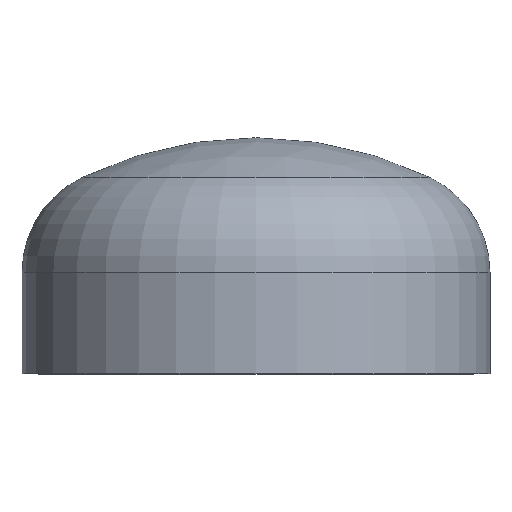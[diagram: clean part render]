
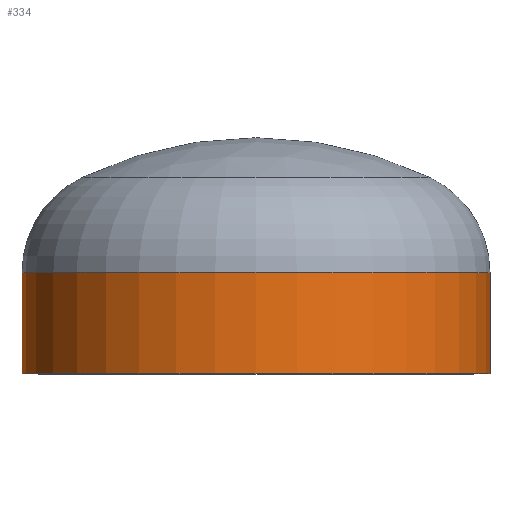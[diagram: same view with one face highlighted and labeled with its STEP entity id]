
A CAD part, top view. The second image highlights one B-rep face of the part: STEP entity #334.
In plain terms, the highlighted cylindrical face has radius 161.95 mm (diameter 323.9 mm), a partial arc.
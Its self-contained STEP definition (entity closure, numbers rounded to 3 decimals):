
#1 = CYLINDRICAL_SURFACE ( 'NONE', #19, 161.95 ) ;
#5 = EDGE_LOOP ( 'NONE', ( #409, #167, #107, #239 ) ) ;
#14 = AXIS2_PLACEMENT_3D ( 'NONE', #354, #208, #375 ) ;
#15 = VERTEX_POINT ( 'NONE', #299 ) ;
#19 = AXIS2_PLACEMENT_3D ( 'NONE', #130, #152, #110 ) ;
#22 = FACE_OUTER_BOUND ( 'NONE', #5, .T. ) ;
#84 = AXIS2_PLACEMENT_3D ( 'NONE', #250, #249, #247 ) ;
#87 = EDGE_CURVE ( 'NONE', #15, #125, #180, .T. ) ;
#92 = EDGE_CURVE ( 'NONE', #127, #125, #403, .T. ) ;
#107 = ORIENTED_EDGE ( 'NONE', *, *, #87, .F. ) ;
#110 = DIRECTION ( 'NONE',  ( 1., 0., 0. ) ) ;
#116 = VERTEX_POINT ( 'NONE', #219 ) ;
#124 = VECTOR ( 'NONE', #307, 1000. ) ;
#125 = VERTEX_POINT ( 'NONE', #312 ) ;
#127 = VERTEX_POINT ( 'NONE', #197 ) ;
#129 = VECTOR ( 'NONE', #346, 1000. ) ;
#130 = CARTESIAN_POINT ( 'NONE',  ( 0., 0., 0. ) ) ;
#152 = DIRECTION ( 'NONE',  ( 0., -1., 0. ) ) ;
#167 = ORIENTED_EDGE ( 'NONE', *, *, #92, .T. ) ;
#180 = CIRCLE ( 'NONE', #84, 161.95 ) ;
#197 = CARTESIAN_POINT ( 'NONE',  ( -161.95, 70., 0. ) ) ;
#200 = CARTESIAN_POINT ( 'NONE',  ( 161.95, 0., 0. ) ) ;
#208 = DIRECTION ( 'NONE',  ( 0., -1., 0. ) ) ;
#219 = CARTESIAN_POINT ( 'NONE',  ( 161.95, 70., 0. ) ) ;
#233 = LINE ( 'NONE', #200, #129 ) ;
#239 = ORIENTED_EDGE ( 'NONE', *, *, #373, .F. ) ;
#247 = DIRECTION ( 'NONE',  ( 1., 0., 0. ) ) ;
#249 = DIRECTION ( 'NONE',  ( 0., -1., 0. ) ) ;
#250 = CARTESIAN_POINT ( 'NONE',  ( 0., 0., 0. ) ) ;
#299 = CARTESIAN_POINT ( 'NONE',  ( 161.95, 0., 0. ) ) ;
#307 = DIRECTION ( 'NONE',  ( 0., -1., 0. ) ) ;
#312 = CARTESIAN_POINT ( 'NONE',  ( -161.95, 0., 0. ) ) ;
#334 = ADVANCED_FACE ( 'NONE', ( #22 ), #1, .T. ) ;
#346 = DIRECTION ( 'NONE',  ( 0., -1., 0. ) ) ;
#348 = CARTESIAN_POINT ( 'NONE',  ( -161.95, 0., 0. ) ) ;
#351 = CIRCLE ( 'NONE', #14, 161.95 ) ;
#354 = CARTESIAN_POINT ( 'NONE',  ( 0., 70., 0. ) ) ;
#373 = EDGE_CURVE ( 'NONE', #116, #15, #233, .T. ) ;
#375 = DIRECTION ( 'NONE',  ( 1., 0., 0. ) ) ;
#387 = EDGE_CURVE ( 'NONE', #116, #127, #351, .T. ) ;
#403 = LINE ( 'NONE', #348, #124 ) ;
#409 = ORIENTED_EDGE ( 'NONE', *, *, #387, .T. ) ;
